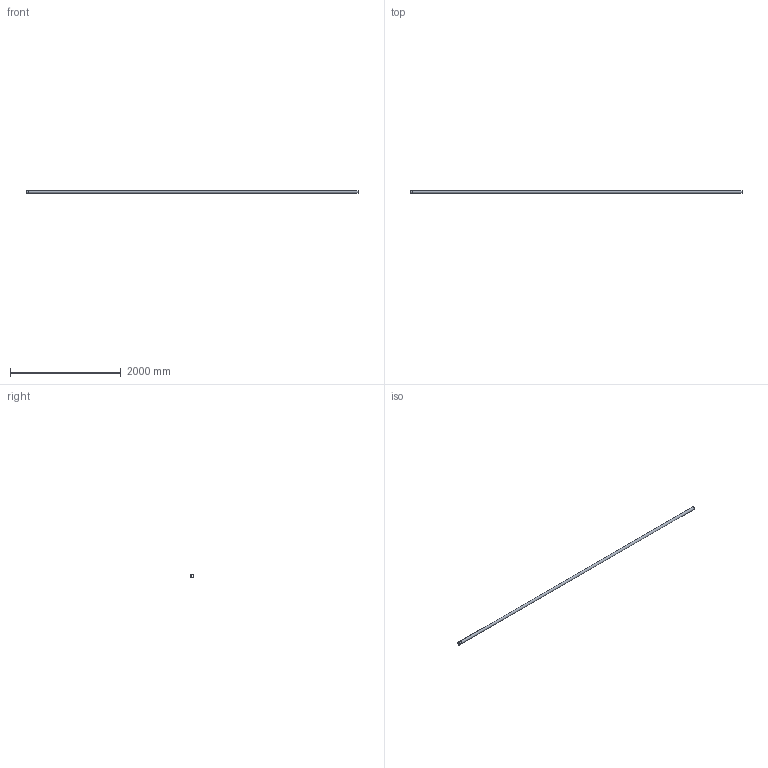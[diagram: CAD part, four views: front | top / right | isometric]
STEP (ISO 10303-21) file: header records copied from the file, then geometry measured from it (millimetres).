
FILE_DESCRIPTION((''),'2;1');
FILE_NAME('I:\WATTS\3D_CAD\3D_CAD_Models\Blucher_Drains\P_StraightPipe\WebsiteFiles\3D\STEP\P2-19.7-316.stp','2009-12-02T13:31:39',('menesek'),(''),'Autodesk Inventor 2010','Autodesk Inventor 2010','');
FILE_SCHEMA(('AUTOMOTIVE_DESIGN { 1 0 10303 214 1 1 1 1 }'));
Length unit declared in the file: inch
Products named in the file (1): P2-19.7-316
Bounding box: 6000 x 60.96 x 60.96 mm (x, y, z)
Volume: 947351.5 mm3; surface area: 1850675.7 mm2
Topology: 1 solids, 1 shells, 109 faces, 285 edges, 190 vertices
Faces by surface type: plane 59, bspline 34, cylinder 16
Full cylindrical faces by diameter (mm): 48.006 x1, 50.038 x1, 50.8 x2, 60.96 x1
Entity records: 13765 total; most frequent: CARTESIAN_POINT 11387, ORIENTED_EDGE 548, DIRECTION 356, EDGE_CURVE 274, VERTEX_POINT 186, EDGE_LOOP 128, AXIS2_PLACEMENT_3D 120, VECTOR 116
